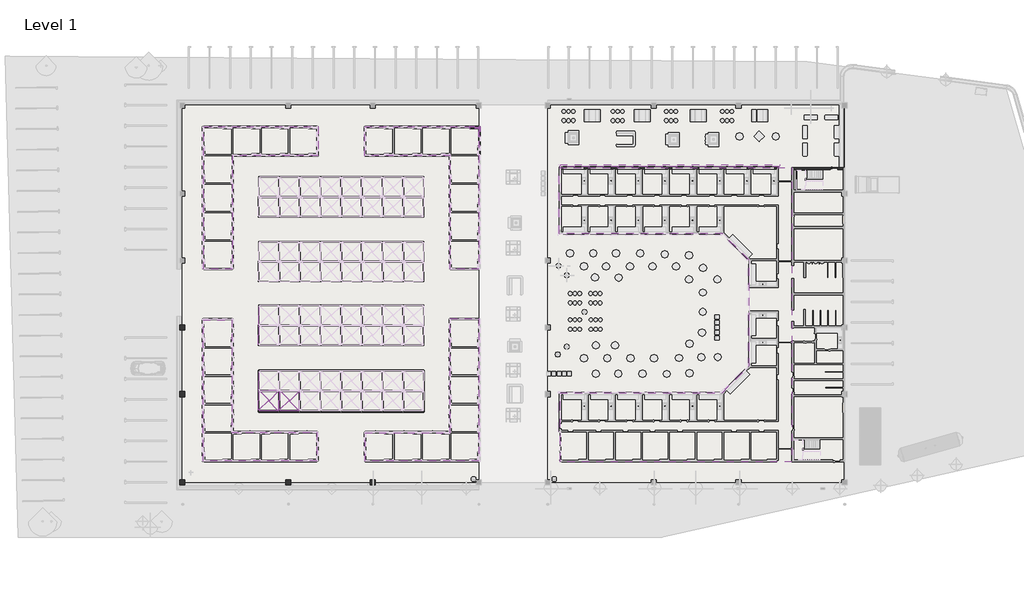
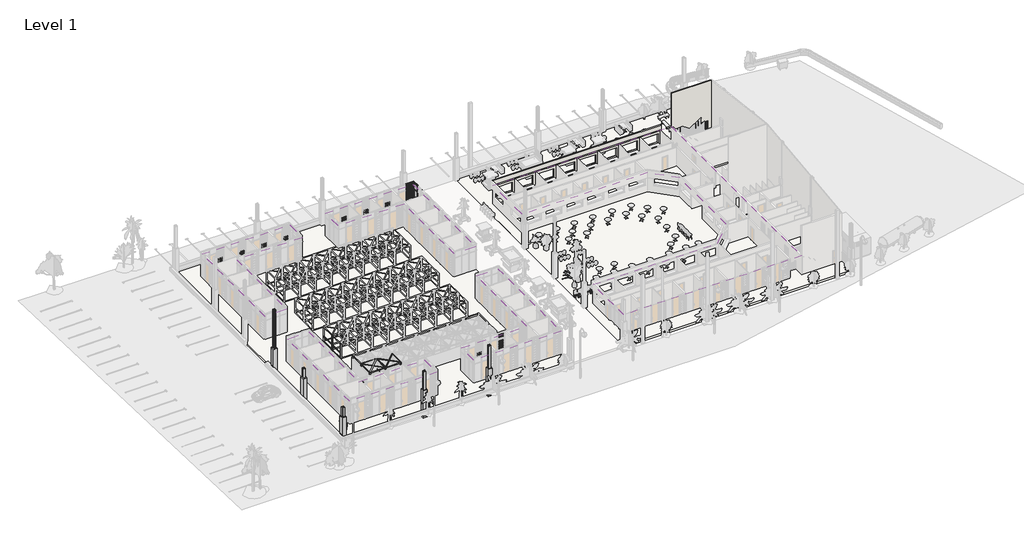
# One storey, part 17 of 32: 31 beams, 20 columns, 13 members, 5 roofs, 4 plates, 3 walls, 2 slabs, 1 door.
"""IFC4 building model written with IfcOpenShell, lengths in millimetres."""

from ifc_helpers import new_model, si_unit, point, frame, frame_2d, origin, place, context, project, spatial, polyline, circle_curve, trimmed, segment, composite_curve, outline, extrude, faceted_brep, transform, mapped, element, save
from components import timber_gauged_nz_100_x_50_a05adcf6, timber_gauged_nz_100_x_50_e4b9d06e, timber_gauged_nz_100_x_50_66b63d81, timber_gauged_nz_100_x_50_718b6390, timber_gauged_nz_100_x_50_7774ab14, timber_gauged_nz_100_x_50_be6c7ca1, timber_gauged_nz_100_x_50_6be5a70a, timber_gauged_nz_100_x_50_7b7bee40, timber_gauged_nz_100_x_50_flat_212af973, timber_gauged_nz_100_x_50_flat_8016973c, column_timber_m_114x114_3b5997c2, doors_intsgl_1_910x2110mm_9bfc0318, rectangular_mullion_50x150mm_a65b6ca2, rectangular_mullion_50x150mm_38419d34, rectangular_mullion_50x150mm_108cdc6f, rectangular_mullion_50x150mm_bbc1c4ea, rectangular_mullion_50x150mm_6c7cb899, rectangular_mullion_50x150mm_68c91185, rectangular_mullion_50x150mm_eeb88b28, rectangular_mullion_50x150mm_4cb985ef, rectangular_mullion_50x150mm_61df5758, curtain_wall_panel_louver_20805_curtain_wall_panel_louver_a50875e5, curtain_wall_panel_glass_louver_20805_curtain_wall_panel_0dcabbaa, system_panel_glazed_7622d22c, system_panel_solid_81bf8050

model = new_model("IFC4")

# Units and contexts
model_context = context("Model", 3, world=origin())
ifc_project = project(units=[si_unit("LENGTHUNIT", "METRE", prefix="MILLI")], contexts=[model_context])

# Site, building, storey
site = spatial("IfcSite", under=ifc_project)
building = spatial("IfcBuilding", under=site)
storey = spatial("IfcBuildingStorey", under=building, Name="Level 1", Elevation=2800.0)

# Beams
placement = place(None, origin())
timber_gauged_nz_100_x_50_shape = timber_gauged_nz_100_x_50_a05adcf6(model_context)
element("IfcBeam", 1, ObjectType="Timber Gauged (NZ) : 100 x 50", at=placement, inside=storey, context=model_context, shape_type="MappedRepresentation", body=[
    mapped(timber_gauged_nz_100_x_50_shape, transform((-79599.6556755, -25111.9011548, 2847.0), x_axis=(1.0, 0.0, 0.0), y_axis=(0.0, 1.0, 0.0), z_axis=(0.0, 0.0, 1.0))),
])
timber_gauged_nz_100_x_50_2_shape = timber_gauged_nz_100_x_50_e4b9d06e(model_context)
element("IfcBeam", 2, ObjectType="Timber Gauged (NZ) : 100 x 50", at=placement, inside=storey, context=model_context, shape_type="MappedRepresentation", body=[
    mapped(timber_gauged_nz_100_x_50_2_shape, transform((-79612.8306755, -27464.9011548, 2847.0), x_axis=(1.0, 0.0, 0.0), y_axis=(0.0, 1.0, 0.0), z_axis=(0.0, 0.0, 1.0))),
])
element("IfcBeam", 3, ObjectType="Timber Gauged (NZ) : 100 x 50", at=placement, inside=storey, context=model_context, shape_type="MappedRepresentation", body=[
    mapped(timber_gauged_nz_100_x_50_2_shape, transform((-77208.4806755, -27464.9011548, 2847.0), x_axis=(1.0, 0.0, 0.0), y_axis=(0.0, 1.0, 0.0), z_axis=(0.0, 0.0, 1.0))),
])
timber_gauged_nz_100_x_50_3_shape = timber_gauged_nz_100_x_50_66b63d81(model_context)
element("IfcBeam", 4, ObjectType="Timber Gauged (NZ) : 100 x 50", at=placement, inside=storey, context=model_context, shape_type="MappedRepresentation", body=[
    mapped(timber_gauged_nz_100_x_50_3_shape, transform((-80776.1556755, -26288.4011548, 2847.0), x_axis=(0.0, -1.0, 0.0), y_axis=(1.0, 0.0, 0.0), z_axis=(0.0, 0.0, 1.0))),
])
element("IfcBeam", 5, ObjectType="Timber Gauged (NZ) : 100 x 50", at=placement, inside=storey, context=model_context, shape_type="MappedRepresentation", body=[
    mapped(timber_gauged_nz_100_x_50_3_shape, transform((-78371.8056755, -26288.4011548, 2847.0), x_axis=(0.0, -1.0, 0.0), y_axis=(1.0, 0.0, 0.0), z_axis=(0.0, 0.0, 1.0))),
])
element("IfcBeam", 6, ObjectType="Timber Gauged (NZ) : 100 x 50", at=placement, inside=storey, context=model_context, shape_type="MappedRepresentation", body=[
    mapped(timber_gauged_nz_100_x_50_3_shape, transform((-80776.1556755, -18688.4011548, 2847.0), x_axis=(0.0, -1.0, 0.0), y_axis=(1.0, 0.0, 0.0), z_axis=(0.0, 0.0, 1.0))),
])
element("IfcBeam", 7, ObjectType="Timber Gauged (NZ) : 100 x 50", at=placement, inside=storey, context=model_context, shape_type="MappedRepresentation", body=[
    mapped(timber_gauged_nz_100_x_50_3_shape, transform((-78423.1556755, -26288.4011548, 2847.0), x_axis=(0.0, -1.0, 0.0), y_axis=(1.0, 0.0, 0.0), z_axis=(0.0, 0.0, 1.0))),
])
element("IfcBeam", 8, ObjectType="Timber Gauged (NZ) : 100 x 50", at=placement, inside=storey, context=model_context, shape_type="MappedRepresentation", body=[
    mapped(timber_gauged_nz_100_x_50_3_shape, transform((-76018.8056755, -26288.4011548, 2847.0), x_axis=(0.0, -1.0, 0.0), y_axis=(1.0, 0.0, 0.0), z_axis=(0.0, 0.0, 1.0))),
])
element("IfcBeam", 9, ObjectType="Timber Gauged (NZ) : 100 x 50", at=placement, inside=storey, context=model_context, shape_type="MappedRepresentation", body=[
    mapped(timber_gauged_nz_100_x_50_3_shape, transform((-80764.8556755, -24005.6175809, 2847.0), x_axis=(0.0, 1.0, 0.0), y_axis=(-1.0, 0.0, 0.0), z_axis=(0.0, 0.0, 1.0))),
])
element("IfcBeam", 10, ObjectType="Timber Gauged (NZ) : 100 x 50", at=placement, inside=storey, context=model_context, shape_type="MappedRepresentation", body=[
    mapped(timber_gauged_nz_100_x_50_3_shape, transform((-80764.8556755, -16405.6175809, 2847.0), x_axis=(0.0, 1.0, 0.0), y_axis=(-1.0, 0.0, 0.0), z_axis=(0.0, 0.0, 1.0))),
])
timber_gauged_nz_100_x_50_4_shape = timber_gauged_nz_100_x_50_718b6390(model_context)
element("IfcBeam", 11, ObjectType="Timber Gauged (NZ) : 100 x 50", at=placement, inside=storey, context=model_context, shape_type="MappedRepresentation", body=[
    mapped(timber_gauged_nz_100_x_50_4_shape, transform((-79607.5056755, -25111.9011548, 5153.0), x_axis=(1.0, 0.0, 0.0), y_axis=(0.0, 1.0, 0.0), z_axis=(0.0, 0.0, 1.0))),
])
timber_gauged_nz_100_x_50_5_shape = timber_gauged_nz_100_x_50_7774ab14(model_context)
element("IfcBeam", 12, ObjectType="Timber Gauged (NZ) : 100 x 50", at=placement, inside=storey, context=model_context, shape_type="MappedRepresentation", body=[
    mapped(timber_gauged_nz_100_x_50_5_shape, transform((-79595.0056755, -27464.9011548, 5153.0), x_axis=(1.0, 0.0, 0.0), y_axis=(0.0, 1.0, 0.0), z_axis=(0.0, 0.0, 1.0))),
])
element("IfcBeam", 13, ObjectType="Timber Gauged (NZ) : 100 x 50", at=placement, inside=storey, context=model_context, shape_type="MappedRepresentation", body=[
    mapped(timber_gauged_nz_100_x_50_5_shape, transform((-77190.6556755, -27464.9011548, 5153.0), x_axis=(1.0, 0.0, 0.0), y_axis=(0.0, 1.0, 0.0), z_axis=(0.0, 0.0, 1.0))),
])
timber_gauged_nz_100_x_50_6_shape = timber_gauged_nz_100_x_50_be6c7ca1(model_context)
element("IfcBeam", 14, ObjectType="Timber Gauged (NZ) : 100 x 50", at=placement, inside=storey, context=model_context, shape_type="MappedRepresentation", body=[
    mapped(timber_gauged_nz_100_x_50_6_shape, transform((-80776.1556755, -26219.9011548, 5153.0), x_axis=(0.0, -1.0, 0.0), y_axis=(1.0, 0.0, 0.0), z_axis=(0.0, 0.0, 1.0))),
])
element("IfcBeam", 15, ObjectType="Timber Gauged (NZ) : 100 x 50", at=placement, inside=storey, context=model_context, shape_type="MappedRepresentation", body=[
    mapped(timber_gauged_nz_100_x_50_6_shape, transform((-78371.8056755, -26219.9011548, 5153.0), x_axis=(0.0, -1.0, 0.0), y_axis=(1.0, 0.0, 0.0), z_axis=(0.0, 0.0, 1.0))),
])
element("IfcBeam", 16, ObjectType="Timber Gauged (NZ) : 100 x 50", at=placement, inside=storey, context=model_context, shape_type="MappedRepresentation", body=[
    mapped(timber_gauged_nz_100_x_50_6_shape, transform((-80776.1556755, -18619.9011548, 5153.0), x_axis=(0.0, -1.0, 0.0), y_axis=(1.0, 0.0, 0.0), z_axis=(0.0, 0.0, 1.0))),
])
timber_gauged_nz_100_x_50_7_shape = timber_gauged_nz_100_x_50_6be5a70a(model_context)
element("IfcBeam", 17, ObjectType="Timber Gauged (NZ) : 100 x 50", at=placement, inside=storey, context=model_context, shape_type="MappedRepresentation", body=[
    mapped(timber_gauged_nz_100_x_50_7_shape, transform((-78423.1556755, -26264.9011548, 5153.0), x_axis=(0.0, -1.0, 0.0), y_axis=(1.0, 0.0, 0.0), z_axis=(0.0, 0.0, 1.0))),
])
element("IfcBeam", 18, ObjectType="Timber Gauged (NZ) : 100 x 50", at=placement, inside=storey, context=model_context, shape_type="MappedRepresentation", body=[
    mapped(timber_gauged_nz_100_x_50_7_shape, transform((-76018.8056755, -26264.9011548, 5153.0), x_axis=(0.0, -1.0, 0.0), y_axis=(1.0, 0.0, 0.0), z_axis=(0.0, 0.0, 1.0))),
])
element("IfcBeam", 19, ObjectType="Timber Gauged (NZ) : 100 x 50", at=placement, inside=storey, context=model_context, shape_type="MappedRepresentation", body=[
    mapped(timber_gauged_nz_100_x_50_7_shape, transform((-80764.8556755, -24029.1175809, 5153.0), x_axis=(0.0, 1.0, 0.0), y_axis=(-1.0, 0.0, 0.0), z_axis=(0.0, 0.0, 1.0))),
])
element("IfcBeam", 20, ObjectType="Timber Gauged (NZ) : 100 x 50", at=placement, inside=storey, context=model_context, shape_type="MappedRepresentation", body=[
    mapped(timber_gauged_nz_100_x_50_7_shape, transform((-80764.8556755, -16429.1175809, 5153.0), x_axis=(0.0, 1.0, 0.0), y_axis=(-1.0, 0.0, 0.0), z_axis=(0.0, 0.0, 1.0))),
])
timber_gauged_nz_100_x_50_8_shape = timber_gauged_nz_100_x_50_7b7bee40(model_context)
element("IfcBeam", 21, ObjectType="Timber Gauged (NZ) : 100 x 50", at=placement, inside=storey, context=model_context, shape_type="MappedRepresentation", body=[
    mapped(timber_gauged_nz_100_x_50_8_shape, transform((-80776.1556755, -26344.9011548, 3653.0), x_axis=(0.0, -1.0, 0.0), y_axis=(1.0, 0.0, 0.0), z_axis=(0.0, 0.0, 1.0))),
])
element("IfcBeam", 22, ObjectType="Timber Gauged (NZ) : 100 x 50", at=placement, inside=storey, context=model_context, shape_type="MappedRepresentation", body=[
    mapped(timber_gauged_nz_100_x_50_8_shape, transform((-78371.8056755, -26344.9011548, 3653.0), x_axis=(0.0, -1.0, 0.0), y_axis=(1.0, 0.0, 0.0), z_axis=(0.0, 0.0, 1.0))),
])
element("IfcBeam", 23, ObjectType="Timber Gauged (NZ) : 100 x 50", at=placement, inside=storey, context=model_context, shape_type="MappedRepresentation", body=[
    mapped(timber_gauged_nz_100_x_50_8_shape, transform((-80776.1556755, -18744.9011548, 3653.0), x_axis=(0.0, -1.0, 0.0), y_axis=(1.0, 0.0, 0.0), z_axis=(0.0, 0.0, 1.0))),
])
element("IfcBeam", 24, ObjectType="Timber Gauged (NZ) : 100 x 50", at=placement, inside=storey, context=model_context, shape_type="MappedRepresentation", body=[
    mapped(timber_gauged_nz_100_x_50_7_shape, transform((-78423.1556755, -26264.7011548, 3653.0), x_axis=(0.0, -1.0, 0.0), y_axis=(1.0, 0.0, 0.0), z_axis=(0.0, 0.0, 1.0))),
])
element("IfcBeam", 25, ObjectType="Timber Gauged (NZ) : 100 x 50", at=placement, inside=storey, context=model_context, shape_type="MappedRepresentation", body=[
    mapped(timber_gauged_nz_100_x_50_7_shape, transform((-76018.8056755, -26264.7011548, 3653.0), x_axis=(0.0, -1.0, 0.0), y_axis=(1.0, 0.0, 0.0), z_axis=(0.0, 0.0, 1.0))),
])
element("IfcBeam", 26, ObjectType="Timber Gauged (NZ) : 100 x 50", at=placement, inside=storey, context=model_context, shape_type="MappedRepresentation", body=[
    mapped(timber_gauged_nz_100_x_50_7_shape, transform((-80764.8556755, -24029.3175809, 3653.0), x_axis=(0.0, 1.0, 0.0), y_axis=(-1.0, 0.0, 0.0), z_axis=(0.0, 0.0, 1.0))),
])
element("IfcBeam", 27, ObjectType="Timber Gauged (NZ) : 100 x 50", at=placement, inside=storey, context=model_context, shape_type="MappedRepresentation", body=[
    mapped(timber_gauged_nz_100_x_50_7_shape, transform((-80764.8556755, -16429.3175809, 3653.0), x_axis=(0.0, 1.0, 0.0), y_axis=(-1.0, 0.0, 0.0), z_axis=(0.0, 0.0, 1.0))),
])
timber_gauged_nz_100_x_50_flat_shape = timber_gauged_nz_100_x_50_flat_212af973(model_context)
element("IfcBeam", 28, ObjectType="Timber Gauged (NZ) : 100 x 50 Flat", at=placement, inside=storey, context=model_context, shape_type="MappedRepresentation", body=[
    mapped(timber_gauged_nz_100_x_50_flat_shape, transform((-79595.4150144, -26283.5138698, 5176.5), x_axis=(0.707106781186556, 0.7071067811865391, 0.0), y_axis=(-0.7071067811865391, 0.707106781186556, 0.0), z_axis=(0.0, 0.0, 1.0))),
])
element("IfcBeam", 29, ObjectType="Timber Gauged (NZ) : 100 x 50 Flat", at=placement, inside=storey, context=model_context, shape_type="MappedRepresentation", body=[
    mapped(timber_gauged_nz_100_x_50_flat_shape, transform((-77191.0650144, -26283.5138698, 5176.5), x_axis=(0.707106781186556, 0.7071067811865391, 0.0), y_axis=(-0.7071067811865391, 0.707106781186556, 0.0), z_axis=(0.0, 0.0, 1.0))),
])
timber_gauged_nz_100_x_50_flat_2_shape = timber_gauged_nz_100_x_50_flat_8016973c(model_context)
element("IfcBeam", 30, ObjectType="Timber Gauged (NZ) : 100 x 50 Flat", at=placement, inside=storey, context=model_context, shape_type="MappedRepresentation", body=[
    mapped(timber_gauged_nz_100_x_50_flat_2_shape, transform((-79649.1551298, -26238.2590359, 5176.5), x_axis=(0.7071067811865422, -0.7071067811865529, 0.0), y_axis=(0.7071067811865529, 0.7071067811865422, 0.0), z_axis=(0.0, 0.0, 1.0))),
])
element("IfcBeam", 31, ObjectType="Timber Gauged (NZ) : 100 x 50 Flat", at=placement, inside=storey, context=model_context, shape_type="MappedRepresentation", body=[
    mapped(timber_gauged_nz_100_x_50_flat_2_shape, transform((-77244.8051298, -26238.2590359, 5176.5), x_axis=(0.7071067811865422, -0.7071067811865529, 0.0), y_axis=(0.7071067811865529, 0.7071067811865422, 0.0), z_axis=(0.0, 0.0, 1.0))),
])

# Columns
element("IfcColumn", 32, ObjectType="Column Concrete-Square (M) : 600 x 600mm", at=placement, inside=storey, context=model_context, shape_type="SweptSolid", body=[
    extrude(outline(polyline([(-35505.9199596, 6400.0), (-35505.9199596, 2000.0), (-36038.667229, 2000.0), (-36038.667229, 2800.0), (-36105.9199596, 2800.0), (-36105.9199596, 6400.0), (-35505.9199596, 6400.0)])), frame((-67830.3056755, 0.0, 0.0), z_axis=(1.0, 0.0, 0.0), x_axis=(0.0, 1.0, 0.0)), (0.0, 0.0, 1.0), 600.0),
])
element("IfcColumn", 33, ObjectType="Column Concrete-Square (M) : 600 x 600mm", at=placement, inside=storey, context=model_context, shape_type="SweptSolid", body=[
    extrude(outline(polyline([(-35505.9199596, 6400.0), (-35505.9199596, 2000.0), (-36038.667229, 2000.0), (-36038.667229, 2800.0), (-36105.9199596, 2800.0), (-36105.9199596, 6400.0), (-35505.9199596, 6400.0)])), frame((-77659.8408447, 0.0, 0.0), z_axis=(1.0, 0.0, 0.0), x_axis=(0.0, 1.0, 0.0)), (0.0, 0.0, 1.0), 600.0),
])
element("IfcColumn", 34, ObjectType="Column Concrete-Square (M) : 600 x 600mm", at=placement, inside=storey, context=model_context, shape_type="Brep", body=[
    faceted_brep([(-89359.8408447, -35505.9199596, 2000.0), (-89359.8408447, -36038.667229, 2000.0), (-89652.2528943, -36038.667229, 2000.0), (-89652.2528943, -35505.9199596, 2000.0), (-89359.8408447, -35505.9199596, 6400.0), (-89359.8408447, -36105.9199596, 6400.0), (-89359.8408447, -36105.9199596, 2800.0), (-89359.8408447, -36038.667229, 2800.0), (-89652.2528943, -35505.9199596, 2800.0), (-89959.8408447, -35505.9199596, 2800.0), (-89959.8408447, -35505.9199596, 6400.0), (-89959.8408447, -36105.9199596, 6400.0), (-89959.8408447, -36105.9199596, 2800.0), (-89652.2528943, -36038.667229, 2800.0)], [[[0, 1, 2, 3]], [[4, 5, 6, 7, 1, 0]], [[4, 0, 3, 8, 9, 10]], [[11, 10, 9, 12]], [[5, 11, 12, 6]], [[5, 4, 10, 11]], [[7, 13, 2, 1]], [[13, 7, 6, 12, 9, 8]], [[13, 8, 3, 2]]]),
])
element("IfcColumn", 35, ObjectType="Column Concrete-Square (M) : 600 x 600mm", at=placement, inside=storey, context=model_context, shape_type="SweptSolid", body=[
    extrude(outline(polyline([(2000.0, -89359.8408447), (6400.0, -89359.8408447), (6400.0, -89959.8408447), (2800.0, -89959.8408447), (2800.0, -89652.2528943), (2000.0, -89652.2528943), (2000.0, -89359.8408447)])), frame((0.0, -25845.9199596, 0.0), z_axis=(0.0, 1.0, 0.0), x_axis=(0.0, 0.0, 1.0)), (0.0, 0.0, 1.0), 600.0),
])
element("IfcColumn", 36, ObjectType="Column Concrete-Square (M) : 600 x 600mm", at=placement, inside=storey, context=model_context, shape_type="SweptSolid", body=[
    extrude(outline(polyline([(2000.0, -89359.8408447), (6400.0, -89359.8408447), (6400.0, -89959.8408447), (2800.0, -89959.8408447), (2800.0, -89652.2528943), (2000.0, -89652.2528943), (2000.0, -89359.8408447)])), frame((0.0, -18085.9199596, 0.0), z_axis=(0.0, 1.0, 0.0), x_axis=(0.0, 0.0, 1.0)), (0.0, 0.0, 1.0), 600.0),
])
column_timber_m_114x114_shape = column_timber_m_114x114_3b5997c2(model_context)
element("IfcColumn", 37, ObjectType="Column Timber (M) : 114x114", at=placement, inside=storey, context=model_context, shape_type="MappedRepresentation", body=[
    mapped(column_timber_m_114x114_shape, transform((-80742.5056755, -27431.2511548, 0.0), x_axis=(1.0, 0.0, 0.0), y_axis=(0.0, 1.0, 0.0), z_axis=(0.0, 0.0, 1.0))),
])
element("IfcColumn", 38, ObjectType="Column Timber (M) : 114x114", at=placement, inside=storey, context=model_context, shape_type="MappedRepresentation", body=[
    mapped(column_timber_m_114x114_shape, transform((-80742.5056755, -25145.5511548, 0.0), x_axis=(1.0, 0.0, 0.0), y_axis=(0.0, 1.0, 0.0), z_axis=(0.0, 0.0, 1.0))),
])
element("IfcColumn", 39, ObjectType="Column Timber (M) : 114x114", at=placement, inside=storey, context=model_context, shape_type="MappedRepresentation", body=[
    mapped(column_timber_m_114x114_shape, transform((-78456.8056755, -27431.2511548, 0.0), x_axis=(1.0, 0.0, 0.0), y_axis=(0.0, 1.0, 0.0), z_axis=(0.0, 0.0, 1.0))),
])
element("IfcColumn", 40, ObjectType="Column Timber (M) : 114x114", at=placement, inside=storey, context=model_context, shape_type="MappedRepresentation", body=[
    mapped(column_timber_m_114x114_shape, transform((-78338.1556755, -27431.2511548, 0.0), x_axis=(1.0, 0.0, 0.0), y_axis=(0.0, 1.0, 0.0), z_axis=(0.0, 0.0, 1.0))),
])
element("IfcColumn", 41, ObjectType="Column Timber (M) : 114x114", at=placement, inside=storey, context=model_context, shape_type="MappedRepresentation", body=[
    mapped(column_timber_m_114x114_shape, transform((-76052.4556755, -27431.2511548, 0.0), x_axis=(1.0, 0.0, 0.0), y_axis=(0.0, 1.0, 0.0), z_axis=(0.0, 0.0, 1.0))),
])
element("IfcColumn", 42, ObjectType="Column Timber (M) : 114x114", at=placement, inside=storey, context=model_context, shape_type="MappedRepresentation", body=[
    mapped(column_timber_m_114x114_shape, transform((-80731.2056755, -25148.4675809, 0.0), x_axis=(-1.0, 0.0, 0.0), y_axis=(0.0, -1.0, 0.0), z_axis=(0.0, 0.0, 1.0))),
])
element("IfcColumn", 43, ObjectType="Column Timber (M) : 114x114", at=placement, inside=storey, context=model_context, shape_type="MappedRepresentation", body=[
    mapped(column_timber_m_114x114_shape, transform((-80731.2056755, -22862.7675809, 0.0), x_axis=(-1.0, 0.0, 0.0), y_axis=(0.0, -1.0, 0.0), z_axis=(0.0, 0.0, 1.0))),
])
element("IfcColumn", 44, ObjectType="Column Timber (M) : 114x114", at=placement, inside=storey, context=model_context, shape_type="MappedRepresentation", body=[
    mapped(column_timber_m_114x114_shape, transform((-80742.5056755, -19831.2511548, 0.0), x_axis=(1.0, 0.0, 0.0), y_axis=(0.0, 1.0, 0.0), z_axis=(0.0, 0.0, 1.0))),
])
element("IfcColumn", 45, ObjectType="Column Timber (M) : 114x114", at=placement, inside=storey, context=model_context, shape_type="MappedRepresentation", body=[
    mapped(column_timber_m_114x114_shape, transform((-80742.5056755, -17545.5511548, 0.0), x_axis=(1.0, 0.0, 0.0), y_axis=(0.0, 1.0, 0.0), z_axis=(0.0, 0.0, 1.0))),
])
element("IfcColumn", 46, ObjectType="Column Timber (M) : 114x114", at=placement, inside=storey, context=model_context, shape_type="MappedRepresentation", body=[
    mapped(column_timber_m_114x114_shape, transform((-80731.2056755, -17548.4675809, 0.0), x_axis=(-1.0, 0.0, 0.0), y_axis=(0.0, -1.0, 0.0), z_axis=(0.0, 0.0, 1.0))),
])
element("IfcColumn", 47, ObjectType="UC-Universal Columns-Column : UC305x305x97", at=placement, inside=storey, context=model_context, shape_type="SweptSolid", body=[
    extrude(outline(composite_curve([segment(polyline([(-67377.6556755, -35959.8699596), (-67682.9556755, -35959.8699596), (-67682.9556755, -35944.4699596), (-67550.4556755, -35944.4699596)]), True, "CONTINUOUS"), segment(trimmed(circle_curve(frame_2d((-67550.4556755, -35929.2699596)), 15.2), [point((-67550.4556755, -35944.4699596))], [point((-67535.2556755, -35929.2699596))], True, "CARTESIAN"), True, "CONTINUOUS"), segment(polyline([(-67535.2556755, -35929.2699596), (-67535.2556755, -35682.5699596)]), True, "CONTINUOUS"), segment(trimmed(circle_curve(frame_2d((-67550.4556755, -35682.5699596)), 15.2), [point((-67535.2556755, -35682.5699596))], [point((-67550.4556755, -35667.3699596))], True, "CARTESIAN"), True, "CONTINUOUS"), segment(polyline([(-67550.4556755, -35667.3699596), (-67682.9556755, -35667.3699596), (-67682.9556755, -35651.9699596), (-67377.6556755, -35651.9699596), (-67377.6556755, -35667.3699596), (-67510.1556755, -35667.3699596)]), True, "CONTINUOUS"), segment(trimmed(circle_curve(frame_2d((-67510.1556755, -35682.5699596)), 15.2), [point((-67510.1556755, -35667.3699596))], [point((-67525.3556755, -35682.5699596))], True, "CARTESIAN"), True, "CONTINUOUS"), segment(polyline([(-67525.3556755, -35682.5699596), (-67525.3556755, -35929.2699596)]), True, "CONTINUOUS"), segment(trimmed(circle_curve(frame_2d((-67510.1556755, -35929.2699596)), 15.2), [point((-67525.3556755, -35929.2699596))], [point((-67510.1556755, -35944.4699596))], True, "CARTESIAN"), True, "CONTINUOUS"), segment(polyline([(-67510.1556755, -35944.4699596), (-67377.6556755, -35944.4699596), (-67377.6556755, -35959.8699596)]), True, "CONTINUOUS")], self_intersect=False)), frame((0.0, 0.0, 2800.0), z_axis=(0.0, 0.0, 1.0), x_axis=(1.0, 0.0, 0.0)), (0.0, 0.0, 1.0), 7202.8294954),
])
element("IfcColumn", 48, ObjectType="UC-Universal Columns-Column : UC305x305x97", at=placement, inside=storey, context=model_context, shape_type="SweptSolid", body=[
    extrude(outline(composite_curve([segment(polyline([(-77207.1908447, -35959.8699596), (-77512.4908447, -35959.8699596), (-77512.4908447, -35944.4699596), (-77379.9908447, -35944.4699596)]), True, "CONTINUOUS"), segment(trimmed(circle_curve(frame_2d((-77379.9908447, -35929.2699596)), 15.2), [point((-77379.9908447, -35944.4699596))], [point((-77364.7908447, -35929.2699596))], True, "CARTESIAN"), True, "CONTINUOUS"), segment(polyline([(-77364.7908447, -35929.2699596), (-77364.7908447, -35682.5699596)]), True, "CONTINUOUS"), segment(trimmed(circle_curve(frame_2d((-77379.9908447, -35682.5699596)), 15.2), [point((-77364.7908447, -35682.5699596))], [point((-77379.9908447, -35667.3699596))], True, "CARTESIAN"), True, "CONTINUOUS"), segment(polyline([(-77379.9908447, -35667.3699596), (-77512.4908447, -35667.3699596), (-77512.4908447, -35651.9699596), (-77207.1908447, -35651.9699596), (-77207.1908447, -35667.3699596), (-77339.6908447, -35667.3699596)]), True, "CONTINUOUS"), segment(trimmed(circle_curve(frame_2d((-77339.6908447, -35682.5699596)), 15.2), [point((-77339.6908447, -35667.3699596))], [point((-77354.8908447, -35682.5699596))], True, "CARTESIAN"), True, "CONTINUOUS"), segment(polyline([(-77354.8908447, -35682.5699596), (-77354.8908447, -35929.2699596)]), True, "CONTINUOUS"), segment(trimmed(circle_curve(frame_2d((-77339.6908447, -35929.2699596)), 15.2), [point((-77354.8908447, -35929.2699596))], [point((-77339.6908447, -35944.4699596))], True, "CARTESIAN"), True, "CONTINUOUS"), segment(polyline([(-77339.6908447, -35944.4699596), (-77207.1908447, -35944.4699596), (-77207.1908447, -35959.8699596)]), True, "CONTINUOUS")], self_intersect=False)), frame((0.0, 0.0, 2800.0), z_axis=(0.0, 0.0, 1.0), x_axis=(1.0, 0.0, 0.0)), (0.0, 0.0, 1.0), 6529.6511844),
])
element("IfcColumn", 49, ObjectType="UC-Universal Columns-Column : UC305x305x97", at=placement, inside=storey, context=model_context, shape_type="SweptSolid", body=[
    extrude(outline(composite_curve([segment(polyline([(-89507.1908447, -35959.8699596), (-89812.4908447, -35959.8699596), (-89812.4908447, -35944.4699596), (-89679.9908447, -35944.4699596)]), True, "CONTINUOUS"), segment(trimmed(circle_curve(frame_2d((-89679.9908447, -35929.2699596)), 15.2), [point((-89679.9908447, -35944.4699596))], [point((-89664.7908447, -35929.2699596))], True, "CARTESIAN"), True, "CONTINUOUS"), segment(polyline([(-89664.7908447, -35929.2699596), (-89664.7908447, -35682.5699596)]), True, "CONTINUOUS"), segment(trimmed(circle_curve(frame_2d((-89679.9908447, -35682.5699596)), 15.2), [point((-89664.7908447, -35682.5699596))], [point((-89679.9908447, -35667.3699596))], True, "CARTESIAN"), True, "CONTINUOUS"), segment(polyline([(-89679.9908447, -35667.3699596), (-89812.4908447, -35667.3699596), (-89812.4908447, -35651.9699596), (-89507.1908447, -35651.9699596), (-89507.1908447, -35667.3699596), (-89639.6908447, -35667.3699596)]), True, "CONTINUOUS"), segment(trimmed(circle_curve(frame_2d((-89639.6908447, -35682.5699596)), 15.2), [point((-89639.6908447, -35667.3699596))], [point((-89654.8908447, -35682.5699596))], True, "CARTESIAN"), True, "CONTINUOUS"), segment(polyline([(-89654.8908447, -35682.5699596), (-89654.8908447, -35929.2699596)]), True, "CONTINUOUS"), segment(trimmed(circle_curve(frame_2d((-89639.6908447, -35929.2699596)), 15.2), [point((-89654.8908447, -35929.2699596))], [point((-89639.6908447, -35944.4699596))], True, "CARTESIAN"), True, "CONTINUOUS"), segment(polyline([(-89639.6908447, -35944.4699596), (-89507.1908447, -35944.4699596), (-89507.1908447, -35959.8699596)]), True, "CONTINUOUS")], self_intersect=False)), frame((0.0, 0.0, 2800.0), z_axis=(0.0, 0.0, 1.0), x_axis=(1.0, 0.0, 0.0)), (0.0, 0.0, 1.0), 5056.8),
])
element("IfcColumn", 50, ObjectType="UC-Universal Columns-Column : UC305x305x97", at=placement, inside=storey, context=model_context, shape_type="SweptSolid", body=[
    extrude(outline(composite_curve([segment(polyline([(-89507.1908447, -25699.8699596), (-89812.4908447, -25699.8699596), (-89812.4908447, -25684.4699596), (-89679.9908447, -25684.4699596)]), True, "CONTINUOUS"), segment(trimmed(circle_curve(frame_2d((-89679.9908447, -25669.2699596)), 15.2), [point((-89679.9908447, -25684.4699596))], [point((-89664.7908447, -25669.2699596))], True, "CARTESIAN"), True, "CONTINUOUS"), segment(polyline([(-89664.7908447, -25669.2699596), (-89664.7908447, -25422.5699596)]), True, "CONTINUOUS"), segment(trimmed(circle_curve(frame_2d((-89679.9908447, -25422.5699596)), 15.2), [point((-89664.7908447, -25422.5699596))], [point((-89679.9908447, -25407.3699596))], True, "CARTESIAN"), True, "CONTINUOUS"), segment(polyline([(-89679.9908447, -25407.3699596), (-89812.4908447, -25407.3699596), (-89812.4908447, -25391.9699596), (-89507.1908447, -25391.9699596), (-89507.1908447, -25407.3699596), (-89639.6908447, -25407.3699596)]), True, "CONTINUOUS"), segment(trimmed(circle_curve(frame_2d((-89639.6908447, -25422.5699596)), 15.2), [point((-89639.6908447, -25407.3699596))], [point((-89654.8908447, -25422.5699596))], True, "CARTESIAN"), True, "CONTINUOUS"), segment(polyline([(-89654.8908447, -25422.5699596), (-89654.8908447, -25669.2699596)]), True, "CONTINUOUS"), segment(trimmed(circle_curve(frame_2d((-89639.6908447, -25669.2699596)), 15.2), [point((-89654.8908447, -25669.2699596))], [point((-89639.6908447, -25684.4699596))], True, "CARTESIAN"), True, "CONTINUOUS"), segment(polyline([(-89639.6908447, -25684.4699596), (-89507.1908447, -25684.4699596), (-89507.1908447, -25699.8699596)]), True, "CONTINUOUS")], self_intersect=False)), frame((0.0, 0.0, 2800.0), z_axis=(0.0, 0.0, 1.0), x_axis=(1.0, 0.0, 0.0)), (0.0, 0.0, 1.0), 5056.8),
])
element("IfcColumn", 51, ObjectType="UC-Universal Columns-Column : UC305x305x97", at=placement, inside=storey, context=model_context, shape_type="SweptSolid", body=[
    extrude(outline(composite_curve([segment(polyline([(-89507.1908447, -17939.8699596), (-89812.4908447, -17939.8699596), (-89812.4908447, -17924.4699596), (-89679.9908447, -17924.4699596)]), True, "CONTINUOUS"), segment(trimmed(circle_curve(frame_2d((-89679.9908447, -17909.2699596)), 15.2), [point((-89679.9908447, -17924.4699596))], [point((-89664.7908447, -17909.2699596))], True, "CARTESIAN"), True, "CONTINUOUS"), segment(polyline([(-89664.7908447, -17909.2699596), (-89664.7908447, -17662.5699596)]), True, "CONTINUOUS"), segment(trimmed(circle_curve(frame_2d((-89679.9908447, -17662.5699596)), 15.2), [point((-89664.7908447, -17662.5699596))], [point((-89679.9908447, -17647.3699596))], True, "CARTESIAN"), True, "CONTINUOUS"), segment(polyline([(-89679.9908447, -17647.3699596), (-89812.4908447, -17647.3699596), (-89812.4908447, -17631.9699596), (-89507.1908447, -17631.9699596), (-89507.1908447, -17647.3699596), (-89639.6908447, -17647.3699596)]), True, "CONTINUOUS"), segment(trimmed(circle_curve(frame_2d((-89639.6908447, -17662.5699596)), 15.2), [point((-89639.6908447, -17647.3699596))], [point((-89654.8908447, -17662.5699596))], True, "CARTESIAN"), True, "CONTINUOUS"), segment(polyline([(-89654.8908447, -17662.5699596), (-89654.8908447, -17909.2699596)]), True, "CONTINUOUS"), segment(trimmed(circle_curve(frame_2d((-89639.6908447, -17909.2699596)), 15.2), [point((-89654.8908447, -17909.2699596))], [point((-89639.6908447, -17924.4699596))], True, "CARTESIAN"), True, "CONTINUOUS"), segment(polyline([(-89639.6908447, -17924.4699596), (-89507.1908447, -17924.4699596), (-89507.1908447, -17939.8699596)]), True, "CONTINUOUS")], self_intersect=False)), frame((0.0, 0.0, 2800.0), z_axis=(0.0, 0.0, 1.0), x_axis=(1.0, 0.0, 0.0)), (0.0, 0.0, 1.0), 9693.6751043),
])

# Door
doors_intsgl_1_910x2110mm_shape = doors_intsgl_1_910x2110mm_9bfc0318(model_context)
element("IfcDoor", 52, ObjectType="Doors_IntSgl_1 : 910x2110mm", at=placement, inside=storey, context=model_context, shape_type="MappedRepresentation", body=[
    mapped(doors_intsgl_1_910x2110mm_shape, transform((-14015.7705062, 644.0800404, 2800.0), x_axis=(1.0, 0.0, 0.0), y_axis=(0.0, 1.0, 0.0), z_axis=(0.0, 0.0, 1.0))),
])

# Members
rectangular_mullion_50x150mm_shape = rectangular_mullion_50x150mm_a65b6ca2(model_context)
element("IfcMember", 53, ObjectType="Rectangular Mullion : 50x150mm", at=placement, inside=storey, context=model_context, shape_type="MappedRepresentation", body=[
    mapped(rectangular_mullion_50x150mm_shape, transform((-55155.3056755, 5444.0800404, 2800.0), x_axis=(0.0, 0.0, -1.0), y_axis=(-1.0, 0.0, 0.0), z_axis=(0.0, 1.0, 0.0))),
])
rectangular_mullion_50x150mm_2_shape = rectangular_mullion_50x150mm_38419d34(model_context)
element("IfcMember", 54, ObjectType="Rectangular Mullion : 50x150mm", at=placement, inside=storey, context=model_context, shape_type="MappedRepresentation", body=[
    mapped(rectangular_mullion_50x150mm_2_shape, transform((-55155.3056755, 4419.0800404, 5800.0), x_axis=(0.0, 0.0, 1.0), y_axis=(-1.0, 0.0, 0.0), z_axis=(0.0, -1.0, 0.0))),
])
rectangular_mullion_50x150mm_3_shape = rectangular_mullion_50x150mm_108cdc6f(model_context)
element("IfcMember", 55, ObjectType="Rectangular Mullion : 50x150mm", at=placement, inside=storey, context=model_context, shape_type="MappedRepresentation", body=[
    mapped(rectangular_mullion_50x150mm_3_shape, transform((-55155.3056755, 4369.0800404, 2800.0), x_axis=(0.0, 0.0, -1.0), y_axis=(-1.0, 0.0, 0.0), z_axis=(0.0, 1.0, 0.0))),
])
element("IfcMember", 56, ObjectType="Rectangular Mullion : 50x150mm", at=placement, inside=storey, context=model_context, shape_type="MappedRepresentation", body=[
    mapped(rectangular_mullion_50x150mm_3_shape, transform((-55155.3056755, 3269.0800404, 2800.0), x_axis=(0.0, 0.0, -1.0), y_axis=(-1.0, 0.0, 0.0), z_axis=(0.0, 1.0, 0.0))),
])
rectangular_mullion_50x150mm_4_shape = rectangular_mullion_50x150mm_bbc1c4ea(model_context)
element("IfcMember", 57, ObjectType="Rectangular Mullion : 50x150mm", at=placement, inside=storey, context=model_context, shape_type="MappedRepresentation", body=[
    mapped(rectangular_mullion_50x150mm_4_shape, transform((-55155.3056755, 3294.0800404, 5800.0), x_axis=(0.0, -1.0, 0.0), y_axis=(-1.0, 0.0, 0.0), z_axis=(0.0, 0.0, -1.0))),
])
element("IfcMember", 58, ObjectType="Rectangular Mullion : 50x150mm", at=placement, inside=storey, context=model_context, shape_type="MappedRepresentation", body=[
    mapped(rectangular_mullion_50x150mm_4_shape, transform((-55155.3056755, 4394.0800404, 5800.0), x_axis=(0.0, -1.0, 0.0), y_axis=(-1.0, 0.0, 0.0), z_axis=(0.0, 0.0, -1.0))),
])
rectangular_mullion_50x150mm_5_shape = rectangular_mullion_50x150mm_6c7cb899(model_context)
element("IfcMember", 59, ObjectType="Rectangular Mullion : 50x150mm", at=placement, inside=storey, context=model_context, shape_type="MappedRepresentation", body=[
    mapped(rectangular_mullion_50x150mm_5_shape, transform((-55155.3056755, 3294.0800404, 2800.0), x_axis=(0.0, -1.0, 0.0), y_axis=(-1.0, 0.0, 0.0), z_axis=(0.0, 0.0, -1.0))),
])
element("IfcMember", 60, ObjectType="Rectangular Mullion : 50x150mm", at=placement, inside=storey, context=model_context, shape_type="MappedRepresentation", body=[
    mapped(rectangular_mullion_50x150mm_5_shape, transform((-55155.3056755, 4394.0800404, 2800.0), x_axis=(0.0, -1.0, 0.0), y_axis=(-1.0, 0.0, 0.0), z_axis=(0.0, 0.0, -1.0))),
])
element("IfcMember", 61, ObjectType="Rectangular Mullion : 50x150mm", at=placement, inside=storey, context=model_context, shape_type="MappedRepresentation", body=[
    mapped(rectangular_mullion_50x150mm_shape, transform((-55155.3056755, 4419.0800404, 6800.0), x_axis=(0.0, 0.0, 1.0), y_axis=(-1.0, 0.0, 0.0), z_axis=(0.0, -1.0, 0.0))),
])
rectangular_mullion_50x150mm_6_shape = rectangular_mullion_50x150mm_68c91185(model_context)
element("IfcMember", 62, ObjectType="Rectangular Mullion : 50x150mm", at=placement, inside=storey, context=model_context, shape_type="MappedRepresentation", body=[
    mapped(rectangular_mullion_50x150mm_6_shape, transform((-55155.3056755, 5494.0800404, 5800.0), x_axis=(0.0, 1.0, 0.0), y_axis=(-1.0, 0.0, 0.0), z_axis=(0.0, 0.0, 1.0))),
])
rectangular_mullion_50x150mm_7_shape = rectangular_mullion_50x150mm_eeb88b28(model_context)
element("IfcMember", 63, ObjectType="Rectangular Mullion : 50x150mm", at=placement, inside=storey, context=model_context, shape_type="MappedRepresentation", body=[
    mapped(rectangular_mullion_50x150mm_7_shape, transform((-55155.3056755, 5494.0800404, 6800.0), x_axis=(0.0, 1.0, 0.0), y_axis=(-1.0, 0.0, 0.0), z_axis=(0.0, 0.0, 1.0))),
])
rectangular_mullion_50x150mm_8_shape = rectangular_mullion_50x150mm_4cb985ef(model_context)
element("IfcMember", 64, ObjectType="Rectangular Mullion : 50x150mm", at=placement, inside=storey, context=model_context, shape_type="MappedRepresentation", body=[
    mapped(rectangular_mullion_50x150mm_8_shape, transform((-55155.3056755, 5494.0800404, 5800.0), x_axis=(0.0, 0.0, 1.0), y_axis=(0.0, -1.0, 0.0), z_axis=(1.0, 0.0, 0.0))),
])
rectangular_mullion_50x150mm_9_shape = rectangular_mullion_50x150mm_61df5758(model_context)
element("IfcMember", 65, ObjectType="Rectangular Mullion : 50x150mm", at=placement, inside=storey, context=model_context, shape_type="MappedRepresentation", body=[
    mapped(rectangular_mullion_50x150mm_9_shape, transform((-55155.3056755, 5494.0800404, 6800.0), x_axis=(0.0, 0.0, 1.0), y_axis=(0.0, -1.0, 0.0), z_axis=(1.0, 0.0, 0.0))),
])

# Plates
curtain_wall_panel_louver_20805_curtain_wall_panel_louver_shape = curtain_wall_panel_louver_20805_curtain_wall_panel_louver_a50875e5(model_context)
element("IfcPlate", 66, ObjectType="Curtain_wall_panel_-_Louver_20805 : Curtain_wall_panel_-_Louver_20805", at=placement, inside=storey, context=model_context, shape_type="MappedRepresentation", body=[
    mapped(curtain_wall_panel_louver_20805_curtain_wall_panel_louver_shape, transform((-55730.3056755, 5494.0800404, 5825.0), x_axis=(1.0, 0.0, 0.0), y_axis=(0.0, 1.0, 0.0), z_axis=(0.0, 0.0, 1.0))),
])
curtain_wall_panel_glass_louver_20805_curtain_wall_panel_shape = curtain_wall_panel_glass_louver_20805_curtain_wall_panel_0dcabbaa(model_context)
element("IfcPlate", 67, ObjectType="Curtain_wall_panel_glass_Louver_20805 : Curtain_wall_panel_glass_Louver_20805", at=placement, inside=storey, context=model_context, shape_type="MappedRepresentation", body=[
    mapped(curtain_wall_panel_glass_louver_20805_curtain_wall_panel_shape, transform((-55730.3056755, 5494.0800404, 2850.0), x_axis=(1.0, 0.0, 0.0), y_axis=(0.0, 1.0, 0.0), z_axis=(0.0, 0.0, 1.0))),
])
system_panel_glazed_shape = system_panel_glazed_7622d22c(model_context)
element("IfcPlate", 68, ObjectType="System Panel : Glazed", at=placement, inside=storey, context=model_context, shape_type="MappedRepresentation", body=[
    mapped(system_panel_glazed_shape, transform((-55155.3056755, 4931.5800404, 2850.0), x_axis=(0.0, -1.0, 0.0), y_axis=(1.0, 0.0, 0.0), z_axis=(0.0, 0.0, 1.0))),
])
system_panel_solid_shape = system_panel_solid_81bf8050(model_context)
element("IfcPlate", 69, ObjectType="System Panel : Solid", at=placement, inside=storey, context=model_context, shape_type="MappedRepresentation", body=[
    mapped(system_panel_solid_shape, transform((-55155.3056755, 4931.5800404, 5825.0), x_axis=(0.0, -1.0, 0.0), y_axis=(1.0, 0.0, 0.0), z_axis=(0.0, 0.0, 1.0))),
])

# Roofs
element("IfcRoof", 70, ObjectType="Roof_Pitched-50SS-220Ins-20MPan-225Purl", at=placement, inside=storey, context=model_context, shape_type="SweptSolid", body=[
    extrude(outline(polyline([(-18910.7705062, -33405.9199596), (-45806.9339353, -33405.9199596), (-45806.9339353, -25405.9199596), (-26988.6251287, -25405.9199596), (-23835.9339353, -22253.2287662), (-23835.9339353, -9997.3413159), (-26927.3552915, -6905.9199596), (-45886.3056755, -6905.9199596), (-45886.3056755, 744.0800404), (-18910.7705062, 744.0800404), (-18910.7705062, -33405.9199596)])), frame((0.0, 0.0, 5800.0), z_axis=(0.0, 0.0, 1.0), x_axis=(1.0, 0.0, 0.0)), (0.0, 0.0, 1.0), 515.0),
])
element("IfcRoof", 71, ObjectType="Roof_Generic-400mm", at=placement, inside=storey, context=model_context, shape_type="SweptSolid", body=[
    extrude(outline(polyline([(-74009.3408447, -30005.9199596), (-74009.3408447, -33305.9199595), (-87209.3408447, -33305.9199595), (-87209.3408447, -16905.9199596), (-83909.3408447, -16905.9199596), (-83909.3408447, -30005.9199596), (-74009.3408447, -30005.9199596)])), frame((0.0, 0.0, 6400.0), z_axis=(0.0, 0.0, 1.0), x_axis=(1.0, 0.0, 0.0)), (0.0, 0.0, 1.0), 400.0),
])
element("IfcRoof", 72, ObjectType="Roof_Generic-400mm", at=placement, inside=storey, context=model_context, shape_type="SweptSolid", body=[
    extrude(outline(polyline([(-55230.3056755, -33305.9199596), (-68430.3056755, -33305.9199596), (-68430.3056755, -30055.4199596), (-58530.3056755, -30055.4199596), (-58530.3056755, -16756.4199596), (-55230.3056755, -16756.4199596), (-55230.3056755, -33305.9199596)])), frame((0.0, 0.0, 6400.0), z_axis=(0.0, 0.0, 1.0), x_axis=(1.0, 0.0, 0.0)), (0.0, 0.0, 1.0), 400.0),
])
element("IfcRoof", 73, ObjectType="Roof_Generic-400mm", at=placement, inside=storey, context=model_context, shape_type="SweptSolid", body=[
    extrude(outline(polyline([(-55230.3056755, -11005.9199596), (-58530.3056755, -11005.9199596), (-58530.3056755, 2131.5800404), (-68479.8056755, 2131.5800404), (-68479.8056755, 5494.0800404), (-55230.3056755, 5494.0800404), (-55230.3056755, -11005.9199596)])), frame((0.0, 0.0, 6400.0), z_axis=(0.0, 0.0, 1.0), x_axis=(1.0, 0.0, 0.0)), (0.0, 0.0, 1.0), 400.0),
])
element("IfcRoof", 74, ObjectType="Roof_Generic-400mm", at=placement, inside=storey, context=model_context, shape_type="SweptSolid", body=[
    extrude(outline(polyline([(-83829.3056755, -11005.9199596), (-87129.3056755, -11005.9199596), (-87129.3056755, 5494.0800404), (-73879.8056755, 5494.0800404), (-73879.8056755, 2131.5800404), (-83829.3056755, 2131.5800404), (-83829.3056755, -11005.9199596)])), frame((0.0, 0.0, 6400.0), z_axis=(0.0, 0.0, 1.0), x_axis=(1.0, 0.0, 0.0)), (0.0, 0.0, 1.0), 400.0),
])

# Slabs
element("IfcSlab", 75, ObjectType="Pad 1", at=placement, inside=storey, context=model_context, shape_type="SweptSolid", body=[
    extrude(outline(polyline([(-47230.3056755, -35805.9199596), (-47230.3056755, 7994.0800404), (-12800.7705062, 7994.0800404), (-12800.7705062, -35805.9199596), (-47230.3056755, -35805.9199596)])), frame((0.0, 0.0, 2495.2), z_axis=(0.0, 0.0, 1.0), x_axis=(1.0, 0.0, 0.0)), (0.0, 0.0, 1.0), 304.8),
])
element("IfcSlab", 76, ObjectType="Pad 1", at=placement, inside=storey, context=model_context, shape_type="SweptSolid", body=[
    extrude(outline(polyline([(-89659.8408447, 7994.0800404), (-55230.3056755, 7994.0800404), (-55230.3056755, -35805.9199596), (-89659.8408447, -35805.9199596), (-89659.8408447, 7994.0800404)])), frame((0.0, 0.0, 2495.2), z_axis=(0.0, 0.0, 1.0), x_axis=(1.0, 0.0, 0.0)), (0.0, 0.0, 1.0), 304.8),
])

# Walls
element("IfcWall", 77, ObjectType="200cmu", at=placement, inside=storey, context=model_context, shape_type="Brep", body=[
    faceted_brep([(-12960.7705062, 544.0800404, 2800.0), (-12960.7705062, 544.0800404, 11214.7449787), (-18710.7705062, 544.0800404, 11214.7449787), (-18910.7705062, 544.0800404, 11214.7449787), (-18910.7705062, 544.0800404, 5800.0), (-18710.7705062, 544.0800404, 5800.0), (-18710.7705062, 544.0800404, 2800.0), (-14470.7705062, 544.0800404, 2800.0), (-14470.7705062, 544.0800404, 4910.0), (-13560.7705062, 544.0800404, 4910.0), (-13560.7705062, 544.0800404, 2800.0), (-12960.7705062, 744.0800404, 11190.1880665), (-12960.7705062, 744.0800404, 2800.0), (-13560.7705062, 744.0800404, 2800.0), (-13560.7705062, 744.0800404, 4910.0), (-14470.7705062, 744.0800404, 4910.0), (-14470.7705062, 744.0800404, 2800.0), (-18710.7705062, 744.0800404, 2800.0), (-18710.7705062, 744.0800404, 5800.0), (-18910.7705062, 744.0800404, 5800.0), (-18910.7705062, 744.0800404, 11190.1880665)], [[[0, 1, 2, 3, 4, 5, 6, 7, 8, 9, 10]], [[11, 12, 13, 14, 15, 16, 17, 18, 19, 20]], [[6, 17, 16, 7]], [[12, 0, 10, 13]], [[1, 0, 12, 11]], [[9, 14, 13, 10]], [[14, 9, 8, 15]], [[15, 8, 7, 16]], [[3, 2, 1, 11, 20]], [[17, 6, 5, 18]], [[3, 20, 19, 4]], [[19, 18, 5, 4]]]),
])
element("IfcWall", 78, ObjectType="Generic - 200mm", at=placement, inside=storey, context=model_context, shape_type="SweptSolid", body=[
    extrude(outline(polyline([(-45806.9339353, 1094.0800404), (-20325.9339353, 1094.0800404), (-20325.9339353, 894.0800404), (-45806.9339353, 894.0800404), (-45806.9339353, 1094.0800404)])), frame((0.0, 0.0, 5200.0), z_axis=(0.0, 0.0, 1.0), x_axis=(1.0, 0.0, 0.0)), (0.0, 0.0, 1.0), 1200.0),
])
element("IfcWall", 79, ObjectType="Wall-Ext_150cmu tile wall", at=placement, inside=storey, context=model_context, shape_type="Brep", body=[
    faceted_brep([(-45686.3056755, 594.0800404, 2800.0), (-42711.3056755, 594.0800404, 2800.0), (-42561.3056755, 594.0800404, 2800.0), (-39561.3056755, 594.0800404, 2800.0), (-39411.3056755, 594.0800404, 2800.0), (-36411.3056755, 594.0800404, 2800.0), (-36261.3056755, 594.0800404, 2800.0), (-33260.9339353, 594.0800404, 2800.0), (-33110.9339353, 594.0800404, 2800.0), (-30110.9339353, 594.0800404, 2800.0), (-29960.9339353, 594.0800404, 2800.0), (-26960.9339353, 594.0800404, 2800.0), (-26810.9339353, 594.0800404, 2800.0), (-23810.9339353, 594.0800404, 2800.0), (-23660.9339353, 594.0800404, 2800.0), (-20660.9339353, 594.0800404, 2800.0), (-20660.9339353, 594.0800404, 5800.0), (-23660.9339353, 594.0800404, 5800.0), (-23810.9339353, 594.0800404, 5800.0), (-26810.9339353, 594.0800404, 5800.0), (-26960.9339353, 594.0800404, 5800.0), (-29960.9339353, 594.0800404, 5800.0), (-30110.9339353, 594.0800404, 5800.0), (-33110.9339353, 594.0800404, 5800.0), (-33260.9339353, 594.0800404, 5800.0), (-36261.3056755, 594.0800404, 5800.0), (-36411.3056755, 594.0800404, 5800.0), (-39411.3056755, 594.0800404, 5800.0), (-39561.3056755, 594.0800404, 5800.0), (-42561.3056755, 594.0800404, 5800.0), (-42711.3056755, 594.0800404, 5800.0), (-45686.3056755, 594.0800404, 5800.0), (-29660.9339353, 594.0800404, 4000.0), (-29660.9339353, 594.0800404, 5400.0), (-27260.9339353, 594.0800404, 5400.0), (-27260.9339353, 594.0800404, 4000.0), (-32790.9339353, 594.0800404, 4000.0), (-32790.9339353, 594.0800404, 5400.0), (-30390.9339353, 594.0800404, 5400.0), (-30390.9339353, 594.0800404, 4000.0), (-33585.9339353, 594.0800404, 5400.0), (-33585.9339353, 594.0800404, 4000.0), (-35985.9339353, 594.0800404, 4000.0), (-35985.9339353, 594.0800404, 5400.0), (-39131.9339353, 594.0800404, 4000.0), (-39131.9339353, 594.0800404, 5400.0), (-36731.9339353, 594.0800404, 5400.0), (-36731.9339353, 594.0800404, 4000.0), (-42311.3056755, 594.0800404, 4000.0), (-42311.3056755, 594.0800404, 5400.0), (-39911.3056755, 594.0800404, 5400.0), (-39911.3056755, 594.0800404, 4000.0), (-43031.9339353, 594.0800404, 5400.0), (-43031.9339353, 594.0800404, 4000.0), (-45431.9339353, 594.0800404, 4000.0), (-45431.9339353, 594.0800404, 5400.0), (-24110.9339353, 594.0800404, 5400.0), (-24110.9339353, 594.0800404, 4000.0), (-26510.9339353, 594.0800404, 4000.0), (-26510.9339353, 594.0800404, 5400.0), (-20960.9339353, 594.0800404, 5400.0), (-20960.9339353, 594.0800404, 4000.0), (-23360.9339353, 594.0800404, 4000.0), (-23360.9339353, 594.0800404, 5400.0), (-20660.9339353, 794.0800404, 2800.0), (-45686.3056755, 794.0800404, 2800.0), (-45686.3056755, 794.0800404, 5800.0), (-20660.9339353, 794.0800404, 5800.0), (-29660.9339353, 794.0800404, 5400.0), (-29660.9339353, 794.0800404, 4000.0), (-27260.9339353, 794.0800404, 4000.0), (-27260.9339353, 794.0800404, 5400.0), (-32790.9339353, 794.0800404, 5400.0), (-32790.9339353, 794.0800404, 4000.0), (-30390.9339353, 794.0800404, 4000.0), (-30390.9339353, 794.0800404, 5400.0), (-33585.9339353, 794.0800404, 4000.0), (-33585.9339353, 794.0800404, 5400.0), (-35985.9339353, 794.0800404, 5400.0), (-35985.9339353, 794.0800404, 4000.0), (-39131.9339353, 794.0800404, 5400.0), (-39131.9339353, 794.0800404, 4000.0), (-36731.9339353, 794.0800404, 4000.0), (-36731.9339353, 794.0800404, 5400.0), (-42311.3056755, 794.0800404, 5400.0), (-42311.3056755, 794.0800404, 4000.0), (-39911.3056755, 794.0800404, 4000.0), (-39911.3056755, 794.0800404, 5400.0), (-43031.9339353, 794.0800404, 4000.0), (-43031.9339353, 794.0800404, 5400.0), (-45431.9339353, 794.0800404, 5400.0), (-45431.9339353, 794.0800404, 4000.0), (-24110.9339353, 794.0800404, 4000.0), (-24110.9339353, 794.0800404, 5400.0), (-26510.9339353, 794.0800404, 5400.0), (-26510.9339353, 794.0800404, 4000.0), (-20960.9339353, 794.0800404, 4000.0), (-20960.9339353, 794.0800404, 5400.0), (-23360.9339353, 794.0800404, 5400.0), (-23360.9339353, 794.0800404, 4000.0)], [[[0, 1, 2, 3, 4, 5, 6, 7, 8, 9, 10, 11, 12, 13, 14, 15, 16, 17, 18, 19, 20, 21, 22, 23, 24, 25, 26, 27, 28, 29, 30, 31], [32, 33, 34, 35], [36, 37, 38, 39], [40, 41, 42, 43], [44, 45, 46, 47], [48, 49, 50, 51], [52, 53, 54, 55], [56, 57, 58, 59], [60, 61, 62, 63]], [[64, 65, 66, 67], [68, 69, 70, 71], [72, 73, 74, 75], [76, 77, 78, 79], [80, 81, 82, 83], [84, 85, 86, 87], [88, 89, 90, 91], [92, 93, 94, 95], [96, 97, 98, 99]], [[15, 14, 13, 12, 11, 10, 9, 8, 7, 6, 5, 4, 3, 2, 1, 0, 65, 64]], [[31, 30, 29, 28, 27, 26, 25, 24, 23, 22, 21, 20, 19, 18, 17, 16, 67, 66]], [[68, 33, 32, 69]], [[69, 32, 35, 70]], [[70, 35, 34, 71]], [[33, 68, 71, 34]], [[72, 37, 36, 73]], [[73, 36, 39, 74]], [[38, 75, 74, 39]], [[37, 72, 75, 38]], [[40, 77, 76, 41]], [[41, 76, 79, 42]], [[78, 43, 42, 79]], [[77, 40, 43, 78]], [[80, 45, 44, 81]], [[81, 44, 47, 82]], [[46, 83, 82, 47]], [[45, 80, 83, 46]], [[84, 49, 48, 85]], [[85, 48, 51, 86]], [[50, 87, 86, 51]], [[49, 84, 87, 50]], [[0, 31, 66, 65]], [[53, 52, 89, 88]], [[54, 53, 88, 91]], [[55, 54, 91, 90]], [[52, 55, 90, 89]], [[57, 56, 93, 92]], [[58, 57, 92, 95]], [[59, 58, 95, 94]], [[56, 59, 94, 93]], [[61, 60, 97, 96]], [[62, 61, 96, 99]], [[63, 62, 99, 98]], [[60, 63, 98, 97]], [[16, 15, 64, 67]]]),
])

save(model, "model.ifc")
